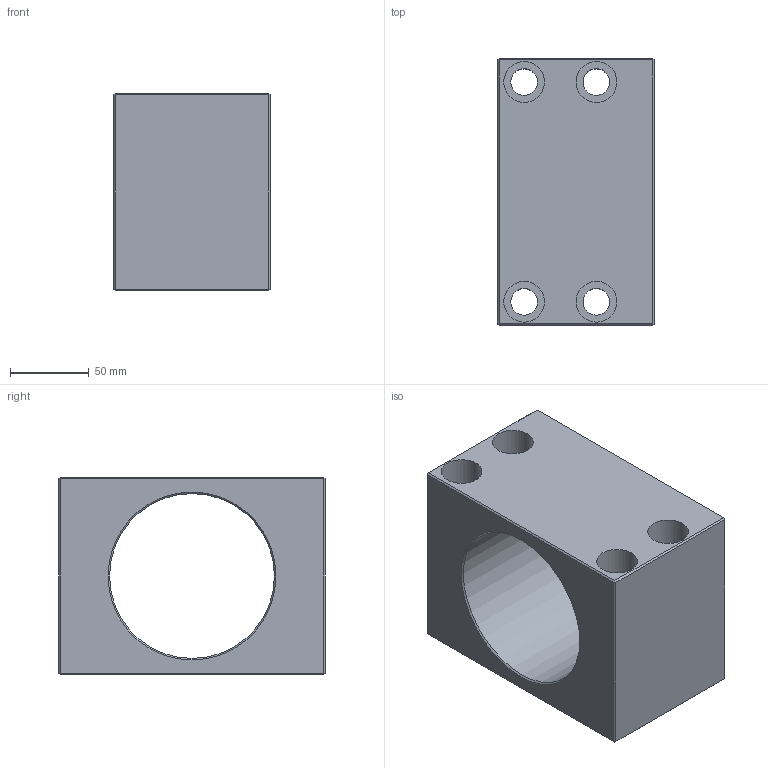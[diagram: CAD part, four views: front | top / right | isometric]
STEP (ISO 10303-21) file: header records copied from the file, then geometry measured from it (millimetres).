
FILE_DESCRIPTION(('STEP AP214'), '1');
FILE_NAME('Äåðæàòåëü ãàéêè ØÂÏ MGD80', '', ('UNSPECIFIED'), ('UNSPECIFIED'), 'C3D Converter', 'C3D Toolkit', '');
FILE_SCHEMA(('AUTOMOTIVE_DESIGN { 1 0 10303 214 3 1 1}'));
Length unit declared in the file: millimetre
Bounding box: 100 x 170 x 126 mm (x, y, z)
Volume: 1116716.8 mm3; surface area: 150623.3 mm2
Topology: 1 solids, 1 shells, 65 faces, 135 edges, 76 vertices
Faces by surface type: plane 30, cone 18, cylinder 17
Full cylindrical faces by diameter (mm): 10.106 x8, 17 x4, 26 x4, 105 x1
Entity records: 2005 total; most frequent: DIRECTION 268, CARTESIAN_POINT 226, ORIENTED_EDGE 184, EDGE_LOOP 114, AXIS2_PLACEMENT_3D 110, EDGE_CURVE 92, VERTEX_POINT 68, COLOUR_RGB 66
